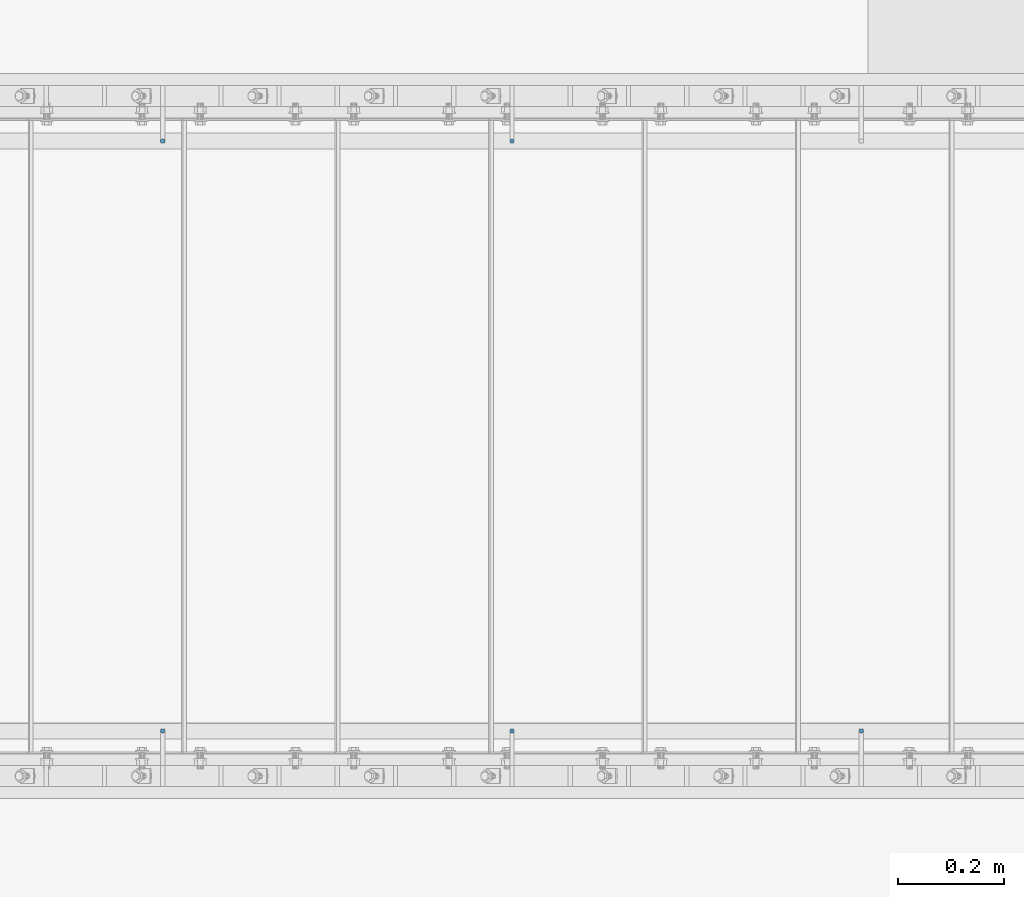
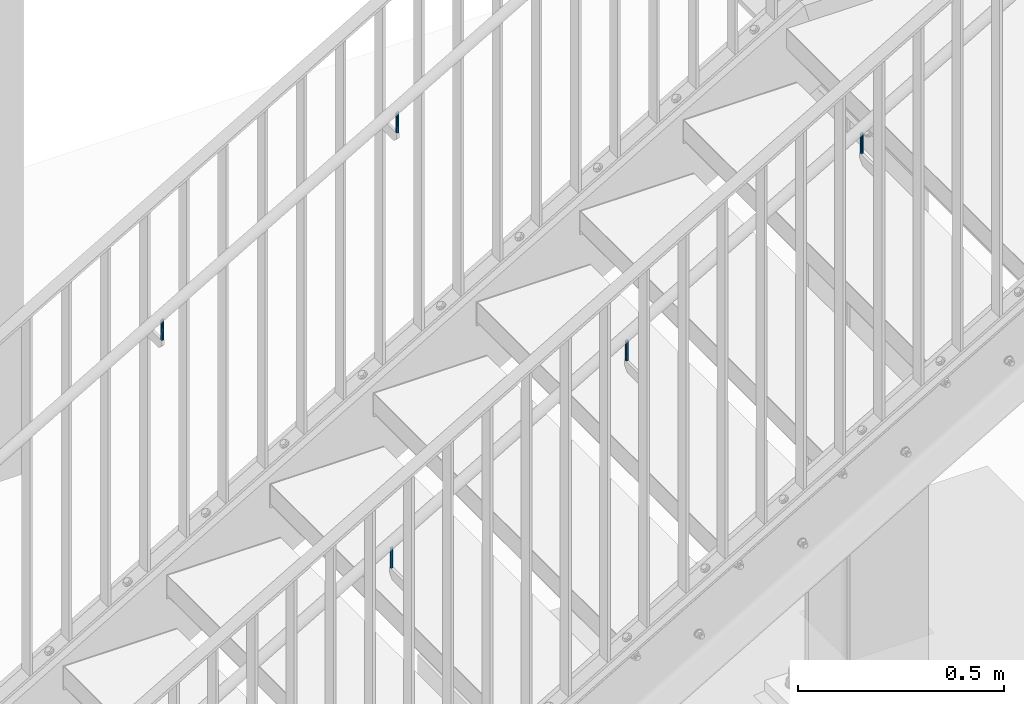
# One storey, part 7 of 145: 5 columns, 5 openings.
"""IFC2X3 building model written with IfcOpenShell, lengths in millimetres."""

from ifc_helpers import new_model, entity, si_unit, converted_unit, frame, origin, origin_with_axes, origin_2d, place, context, project, spatial, polyline, circle, outline, extrude, material, element, save


model = new_model("IFC2X3")

# Units and contexts
model_context = context("Model", 3, precision=1e-09, world=origin_with_axes())
ifc_project = project(units=[si_unit("LENGTHUNIT", "METRE", prefix="MILLI"), si_unit("AREAUNIT", "SQUARE_METRE"), si_unit("VOLUMEUNIT", "CUBIC_METRE"), converted_unit("PLANEANGLEUNIT", "DEGREE", entity("IfcPlaneAngleMeasure", 0.01745329), si_unit("PLANEANGLEUNIT", "RADIAN"), dimensions=[0, 0, 0, 0, 0, 0, 0])], contexts=[model_context])

# Site, building, storey
site_placement = place(None, origin_with_axes())
site = spatial("IfcSite", under=ifc_project, at=site_placement, Name="BZ1 Grund- und Mittelschule 85716 Unterschlei?heim", CompositionType="ELEMENT")
building_placement = place(site_placement, origin_with_axes())
building = spatial("IfcBuilding", under=site, at=building_placement, Name="Struktur 1", CompositionType="ELEMENT")
storey_placement = place(building_placement, origin_with_axes())
storey = spatial("IfcBuildingStorey", under=building, at=storey_placement, Name="Default Storey", CompositionType="ELEMENT", Elevation=0.0)

# Column, opening
ifc_material = material(Name="1.4301")
column_1_placement = place(None, frame((18078.545893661, -1962.502, 1288.506819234), z_axis=(0.0, 0.0, 1.0), x_axis=(0.0, 1.0, 0.0)))
column_1 = element("IfcColumn", 1, at=column_1_placement, inside=storey, material=ifc_material, Name="-", ObjectType="-", context=model_context, shape_type="SweptSolid", body=[
    extrude(circle(Radius=4.0, at=origin_2d()), origin(), (0.0, 0.0, 1.0), 60.0),
])
opening_1_placement = place(column_1_placement, frame((-104.1, 13.305390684, 49.935677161), z_axis=(-1.0, 0.0, 0.0), x_axis=(0.0, -0.864466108, 0.502691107)))
element("IfcOpeningElement", 2, at=opening_1_placement, cuts=column_1, ObjectType="Opening", context=model_context, shape_type="SweptSolid", body=[
    extrude(outline(polyline([(0.0, 0.0), (33.862833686, 0.0), (4.378771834, 17.145120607), (0.0, 0.0)])), origin(), (0.0, 0.0, -1.0), 208.2),
])

column_2_placement = place(None, frame((18078.545893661, -3077.502, 1288.506819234), z_axis=(0.0, 0.0, -1.0), x_axis=(0.0, -1.0, 0.0)))
column_2 = element("IfcColumn", 3, at=column_2_placement, inside=storey, material=ifc_material, Name="-", ObjectType="-", context=model_context, shape_type="SweptSolid", body=[
    extrude(circle(Radius=4.0, at=origin_2d()), origin(), (0.0, 0.0, -1.0), 60.0),
])
opening_2_placement = place(column_2_placement, frame((-104.1, 0.0, -60.0), z_axis=(1.0, 0.0, 0.0), x_axis=(0.0, -1.0, 0.0)))
element("IfcOpeningElement", 4, at=opening_2_placement, cuts=column_2, ObjectType="Opening", context=model_context, shape_type="SweptSolid", body=[
    extrude(outline(polyline([(-13.305390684, -10.064322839), (15.967881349, 6.958222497), (-18.138790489, 6.958222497), (-13.305390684, -10.064322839)])), origin(), (0.0, 0.0, 1.0), 208.2),
])

column_3_placement = place(None, frame((18738.545893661, -3077.502, 1672.299922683), z_axis=(0.0, 0.0, -1.0), x_axis=(0.0, -1.0, 0.0)))
column_3 = element("IfcColumn", 5, at=column_3_placement, inside=storey, material=ifc_material, Name="-", ObjectType="-", context=model_context, shape_type="SweptSolid", body=[
    extrude(circle(Radius=4.0, at=origin_2d()), origin(), (0.0, 0.0, -1.0), 60.0),
])
opening_3_placement = place(column_3_placement, frame((-104.1, 0.0, -60.0), z_axis=(1.0, 0.0, 0.0), x_axis=(0.0, -1.0, 0.0)))
element("IfcOpeningElement", 6, at=opening_3_placement, cuts=column_3, ObjectType="Opening", context=model_context, shape_type="SweptSolid", body=[
    extrude(outline(polyline([(-13.305390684, -10.064322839), (15.967881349, 6.958222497), (-18.138790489, 6.958222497), (-13.305390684, -10.064322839)])), origin(), (0.0, 0.0, 1.0), 208.2),
])

column_4_placement = place(None, frame((18738.545893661, -1962.502, 1672.299922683), z_axis=(0.0, 0.0, 1.0), x_axis=(0.0, 1.0, 0.0)))
column_4 = element("IfcColumn", 7, at=column_4_placement, inside=storey, material=ifc_material, Name="-", ObjectType="-", context=model_context, shape_type="SweptSolid", body=[
    extrude(circle(Radius=4.0, at=origin_2d()), origin(), (0.0, 0.0, 1.0), 60.0),
])
opening_4_placement = place(column_4_placement, frame((-104.1, 13.305390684, 49.935677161), z_axis=(-1.0, 0.0, 0.0), x_axis=(0.0, -0.864466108, 0.502691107)))
element("IfcOpeningElement", 8, at=opening_4_placement, cuts=column_4, ObjectType="Opening", context=model_context, shape_type="SweptSolid", body=[
    extrude(outline(polyline([(0.0, 0.0), (33.862833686, 0.0), (4.378771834, 17.145120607), (0.0, 0.0)])), origin(), (0.0, 0.0, -1.0), 208.2),
])

column_5_placement = place(None, frame((19398.54589366, -3077.502, 2056.093026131), z_axis=(0.0, 0.0, -1.0), x_axis=(0.0, -1.0, 0.0)))
column_5 = element("IfcColumn", 9, at=column_5_placement, inside=storey, material=ifc_material, Name="-", ObjectType="-", context=model_context, shape_type="SweptSolid", body=[
    extrude(circle(Radius=4.0, at=origin_2d()), origin(), (0.0, 0.0, -1.0), 60.0),
])
opening_5_placement = place(column_5_placement, frame((-104.1, 0.0, -60.0), z_axis=(1.0, 0.0, 0.0), x_axis=(0.0, -1.0, 0.0)))
element("IfcOpeningElement", 10, at=opening_5_placement, cuts=column_5, ObjectType="Opening", context=model_context, shape_type="SweptSolid", body=[
    extrude(outline(polyline([(-13.305390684, -10.064322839), (15.967881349, 6.958222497), (-18.138790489, 6.958222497), (-13.305390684, -10.064322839)])), origin(), (0.0, 0.0, 1.0), 208.2),
])

save(model, "model.ifc")
